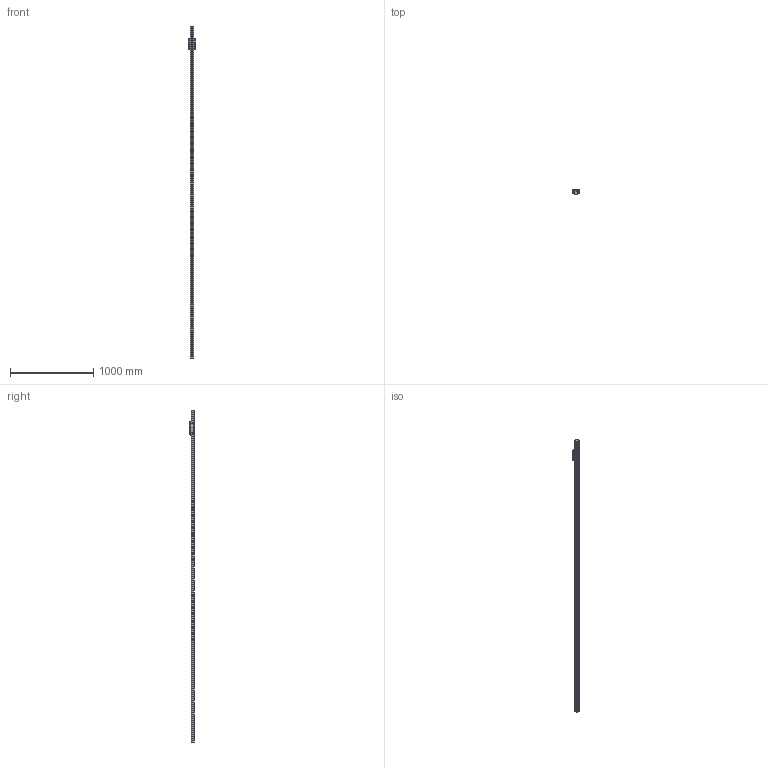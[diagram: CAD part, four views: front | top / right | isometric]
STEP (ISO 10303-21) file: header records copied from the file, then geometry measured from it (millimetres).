
FILE_DESCRIPTION((''),'2;1');
FILE_NAME('BRS45-U0_CUSTOMER_ASM_ASM','2020-11-24T17:01:44',('TWVS2025'),(''),'CREO PARAMETRIC BY PTC INC, 2018420','CREO PARAMETRIC BY PTC INC, 2018420','');
FILE_SCHEMA(('CONFIG_CONTROL_DESIGN'));
Products named in the file (4): BC-BRD45-U0_ASM_1; BRS45-U0_CUSTOMER_ASM_1_ASM; BRR45_CUSTOMER_1; BRS45-U0_CUSTOMER_ASM_ASM
Assembly tree (3 placements, depth 3):
  BRS45-U0_CUSTOMER_ASM_ASM
    BRS45-U0_CUSTOMER_ASM_1_ASM
      BC-BRD45-U0_ASM_1
    BRR45_CUSTOMER_1
Bounding box: 85.95 x 60 x 4000 mm (x, y, z)
Volume: 5868318.8 mm3; surface area: 874738.7 mm2
Topology: 1 solids, 76 shells, 1698 faces, 4859 edges, 3105 vertices
Faces by surface type: plane 702, cylinder 538, sphere 192, bspline 112, cone 96, torus 54, extrusion 4
Entity records: 79845 total; most frequent: CARTESIAN_POINT 37099, ORIENTED_EDGE 9123, DIRECTION 8606, EDGE_CURVE 4579, AXIS2_PLACEMENT_3D 3188, VERTEX_POINT 3105, VECTOR 2230, LINE 2226
